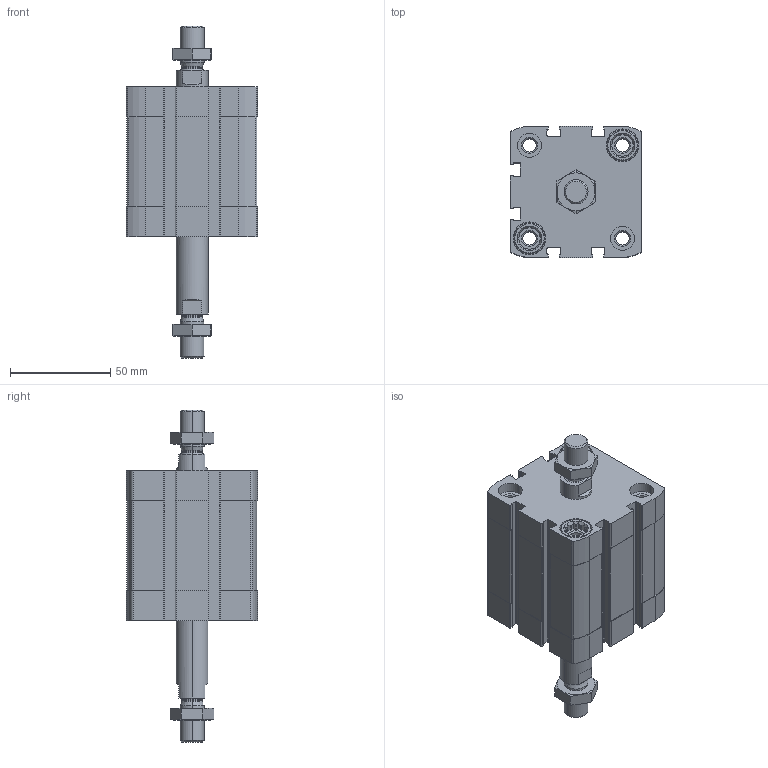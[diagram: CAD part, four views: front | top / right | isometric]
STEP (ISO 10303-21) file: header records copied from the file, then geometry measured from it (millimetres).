
FILE_DESCRIPTION (( 'STEP AP203' ), '1' );
FILE_NAME ('CCN50-30-P.STEP', '2020-06-22T18:57:20', ( '' ), ( '' ), 'SwSTEP 2.0', 'SolidWorks 2019', '' );
FILE_SCHEMA (( 'CONFIG_CONTROL_DESIGN' ));
Length unit declared in the file: millimetre
Products named in the file (1): CCN50-30-P
Bounding box: 65.5 x 65.5 x 166 mm (x, y, z)
Volume: 250314.9 mm3; surface area: 69247.4 mm2
Topology: 4 solids, 4 shells, 528 faces, 1392 edges, 904 vertices
Faces by surface type: plane 240, cylinder 220, cone 60, torus 8
Entity records: 17219 total; most frequent: CARTESIAN_POINT 3821, DIRECTION 2842, ORIENTED_EDGE 2784, EDGE_CURVE 1392, AXIS2_PLACEMENT_3D 1045, VERTEX_POINT 904, LINE 752, VECTOR 752
